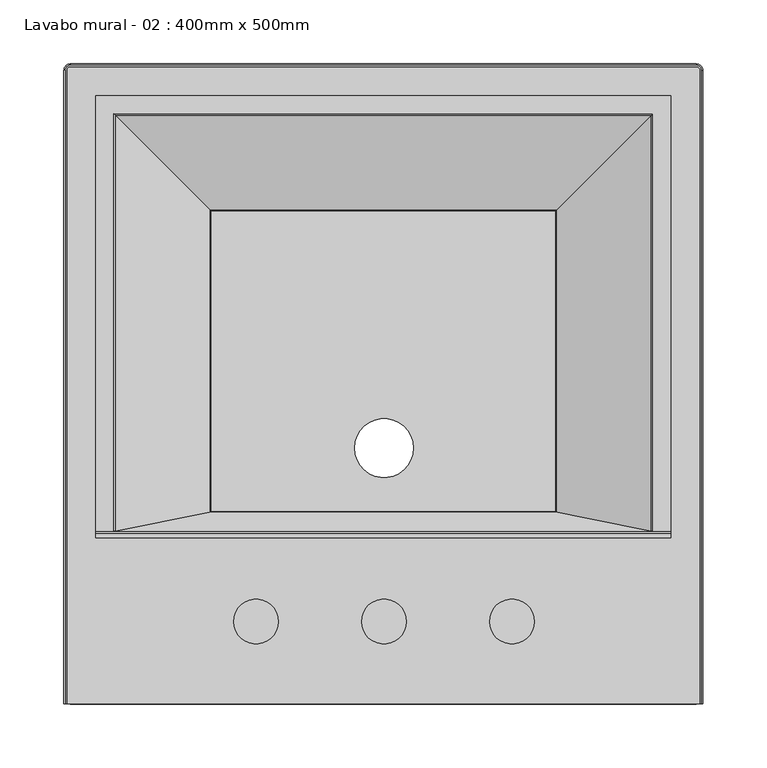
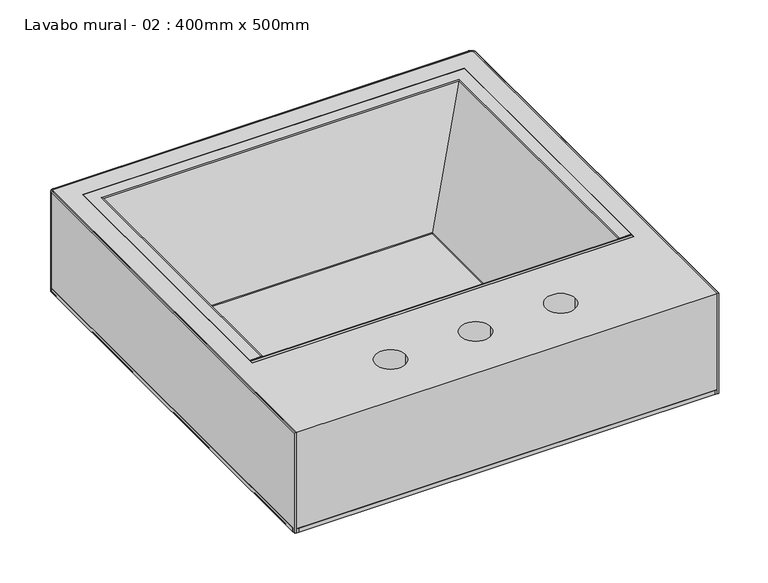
"""IFC4 building model written with IfcOpenShell, lengths in millimetres: flow terminal geometry, Lavabo mural - 02 : 400mm x 500mm."""

import ifcopenshell
import ifcopenshell.guid

model = None  # the IFC model being written
_history = None  # IfcOwnerHistory: only IFC2X3 demands one
_inside = {}  # id of a spatial element -> (the spatial element, [elements in it])
_under = {}  # id of a project, library or spatial element -> (it, [spatial elements below it])
_declared = {}  # id of a project -> (the project, [libraries it declares])
_typed = {}  # id of a type object -> (the type object, [elements of that type])
_made_of = {}  # id of a material, layer set ... -> (it, [elements and type objects made of it])


def new_model(schema):
    """Start an empty IFC model of exactly this schema.

    Asked for "IFC4X3", IfcOpenShell would pick the latest addendum, in which some entities
    have other attributes; the version numbers below select the first issue.
    IFC2X3 requires an IfcOwnerHistory on every rooted entity: one is made here for all.
    """
    global model, _history
    if schema == "IFC4X3":
        model = ifcopenshell.file(schema_version=(4, 3, 0, 0))
    else:
        model = ifcopenshell.file(schema=schema)
    _inside.clear()
    _under.clear()
    _declared.clear()
    _typed.clear()
    _made_of.clear()
    _history = None
    if model.schema == "IFC2X3":
        org = make("IfcOrganization", Name="unknown")
        user = make(
            "IfcPersonAndOrganization",
            ThePerson=make("IfcPerson", FamilyName="unknown"),
            TheOrganization=org,
        )
        app = make(
            "IfcApplication",
            ApplicationDeveloper=org,
            Version="unknown",
            ApplicationFullName="unknown",
            ApplicationIdentifier="unknown",
        )
        _history = make(
            "IfcOwnerHistory",
            OwningUser=user,
            OwningApplication=app,
            ChangeAction="ADDED",
            CreationDate=0,
        )
    return model


def make(cls, **values):
    """One entity of the class cls with the attributes given. An attribute that is None is left unset."""
    return model.create_entity(
        cls, **{name: value for name, value in values.items() if value is not None}
    )


def rooted(cls, **values):
    """An entity with a GlobalId (a new one), such as an element, a storey or a relation."""
    return make(cls, GlobalId=ifcopenshell.guid.new(), OwnerHistory=_history, **values)


def si_unit(unit_type, name, prefix=None):
    """IfcSIUnit, for example si_unit("LENGTHUNIT", "METRE", prefix="MILLI")."""
    return make("IfcSIUnit", UnitType=unit_type, Prefix=prefix, Name=name)


def assignment(units):
    """IfcUnitAssignment: the units of a project."""
    return None if units is None else make("IfcUnitAssignment", Units=units)


def point(xyz):
    """IfcCartesianPoint."""
    return None if xyz is None else make("IfcCartesianPoint", Coordinates=xyz)


def direction(xyz):
    """IfcDirection."""
    return None if xyz is None else make("IfcDirection", DirectionRatios=xyz)


def frame(location, z_axis=None, x_axis=None):
    """IfcAxis2Placement3D, a coordinate frame: its origin and axes. An axis left out is left unset."""
    return make(
        "IfcAxis2Placement3D",
        Location=point(location),
        Axis=direction(z_axis),
        RefDirection=direction(x_axis),
    )


def frame_2d(location, x_axis=None):
    """IfcAxis2Placement2D, a coordinate frame in the plane: its origin and x axis."""
    return make(
        "IfcAxis2Placement2D", Location=point(location), RefDirection=direction(x_axis)
    )


def origin():
    """The frame at (0, 0, 0) with its axes left unset."""
    return frame((0.0, 0.0, 0.0))


def place(relative_to, where):
    """IfcLocalPlacement: puts the frame where relative to a parent placement (None: the world)."""
    return make(
        "IfcLocalPlacement", PlacementRelTo=relative_to, RelativePlacement=where
    )


def context(
    kind, dimensions, precision=None, world=None, true_north=None, identifier=None
):
    """IfcGeometricRepresentationContext, for example the 3D "Model" context."""
    return make(
        "IfcGeometricRepresentationContext",
        ContextIdentifier=identifier,
        ContextType=kind,
        CoordinateSpaceDimension=dimensions,
        Precision=precision,
        WorldCoordinateSystem=world,
        TrueNorth=true_north,
    )


def project(units=None, contexts=None):
    """IfcProject with its units and contexts."""
    return rooted(
        "IfcProject",
        Name="project",
        RepresentationContexts=contexts,
        UnitsInContext=assignment(units),
    )


def spatial(cls, under=None, at=None, **own):
    """A site, building, storey or space (cls), placed at a placement, below another one or the project."""
    s = rooted(cls, ObjectPlacement=at, **own)
    if under is not None:
        _under.setdefault(under.id(), (under, []))[1].append(s)
    return s


def polyline(points):
    """IfcPolyline through the points."""
    return make("IfcPolyline", Points=[point(p) for p in points])


def circle_curve(where, radius):
    """IfcCircle in the frame where."""
    return make("IfcCircle", Position=where, Radius=radius)


def ellipse_curve(where, semi_axis1, semi_axis2):
    """IfcEllipse in the frame where."""
    return make(
        "IfcEllipse", Position=where, SemiAxis1=semi_axis1, SemiAxis2=semi_axis2
    )


def trimmed(basis, trim1, trim2, sense, master):
    """IfcTrimmedCurve: the piece of a basis curve between two trims."""
    return make(
        "IfcTrimmedCurve",
        BasisCurve=basis,
        Trim1=trim1,
        Trim2=trim2,
        SenseAgreement=sense,
        MasterRepresentation=master,
    )


def segment(curve, same_sense, transition):
    """IfcCompositeCurveSegment."""
    return make(
        "IfcCompositeCurveSegment",
        Transition=transition,
        SameSense=same_sense,
        ParentCurve=curve,
    )


def composite_curve(segments, self_intersect=None):
    """IfcCompositeCurve: segments joined end to end."""
    return make("IfcCompositeCurve", Segments=segments, SelfIntersect=self_intersect)


def outline(outer, holes=None, kind="AREA"):
    """IfcArbitraryClosedProfileDef: a profile drawn as a closed curve; with holes, ...WithVoids."""
    if holes is None:
        return make("IfcArbitraryClosedProfileDef", ProfileType=kind, OuterCurve=outer)
    return make(
        "IfcArbitraryProfileDefWithVoids",
        ProfileType=kind,
        OuterCurve=outer,
        InnerCurves=holes,
    )


def extrude(swept, where, along, depth):
    """IfcExtrudedAreaSolid: the profile swept, set in the frame where, extruded along a direction by depth."""
    return make(
        "IfcExtrudedAreaSolid",
        SweptArea=swept,
        Position=where,
        ExtrudedDirection=direction(along),
        Depth=depth,
    )


def shape(context_of_items, identifier, shape_type, items):
    """IfcShapeRepresentation: the items that make up one representation, for example the "Body"."""
    return make(
        "IfcShapeRepresentation",
        ContextOfItems=context_of_items,
        RepresentationIdentifier=identifier,
        RepresentationType=shape_type,
        Items=items,
    )


def source(mapping_origin, context_of_items, identifier, shape_type, items):
    """IfcRepresentationMap: a shape defined once, which mapped items show again and again."""
    return make(
        "IfcRepresentationMap",
        MappingOrigin=mapping_origin,
        MappedRepresentation=shape(context_of_items, identifier, shape_type, items),
    )


def transform(
    local_origin,
    x_axis=None,
    y_axis=None,
    z_axis=None,
    scale=None,
    scale2=None,
    scale3=None,
    uniform=True,
):
    """IfcCartesianTransformationOperator3D, or its non-uniform kind. x_axis, y_axis, z_axis: its Axis1, 2, 3."""
    if uniform:
        return make(
            "IfcCartesianTransformationOperator3D",
            Axis1=direction(x_axis),
            Axis2=direction(y_axis),
            LocalOrigin=point(local_origin),
            Scale=scale,
            Axis3=direction(z_axis),
        )
    return make(
        "IfcCartesianTransformationOperator3DnonUniform",
        Axis1=direction(x_axis),
        Axis2=direction(y_axis),
        LocalOrigin=point(local_origin),
        Scale=scale,
        Axis3=direction(z_axis),
        Scale2=scale2,
        Scale3=scale3,
    )


def mapped(mapping_source, mapping_target):
    """IfcMappedItem: shows the shape of a source again, moved by a transform."""
    return make(
        "IfcMappedItem", MappingSource=mapping_source, MappingTarget=mapping_target
    )


def made_of(thing, what):
    """Note that an element or type object is made of a material, layer set ...; save() writes the relation."""
    if what is not None:
        _made_of.setdefault(what.id(), (what, []))[1].append(thing)
    return thing


def element(
    cls,
    number,
    at=None,
    inside=None,
    cuts=None,
    type_object=None,
    material=None,
    context=None,
    identifier="Body",
    shape_type=None,
    held_by="IfcProductDefinitionShape",
    body=None,
    shapes=None,
    **own,
):
    """One element of the class cls, such as IfcWall. Its Tag is "e" and its number.

    at: its placement. inside: the storey or other place that contains it. cuts: it is an
    opening in that element (IfcRelVoidsElement). A single representation is given by context,
    identifier, shape_type and body (its items); several are given by shapes. held_by: the class
    of the entity that holds the representations. save() writes the other relations.
    """
    e = rooted(cls, Tag="e%d" % number, ObjectPlacement=at, **own)
    if body is not None:
        shapes = [shape(context, identifier, shape_type, body)]
    if shapes is not None:
        e.Representation = make(held_by, Representations=shapes)
    if inside is not None:
        _inside.setdefault(inside.id(), (inside, []))[1].append(e)
    if cuts is not None:
        rooted(
            "IfcRelVoidsElement", RelatingBuildingElement=cuts, RelatedOpeningElement=e
        )
    if type_object is not None:
        _typed.setdefault(type_object.id(), (type_object, []))[1].append(e)
    return made_of(e, material)


def aggregate(whole, parts):
    """IfcRelAggregates: a whole, such as a stair, and the parts it consists of."""
    return rooted("IfcRelAggregates", RelatingObject=whole, RelatedObjects=parts)


def save(model, path):
    """Write the relations noted so far, then the file.

    IfcRelAggregates (storeys below a building ...), IfcRelContainedInSpatialStructure (elements
    in a storey), IfcRelDefinesByType, IfcRelAssociatesMaterial and IfcRelDeclares: one each for
    every whole, place, type object, material and project.
    """
    for whole, parts in _under.values():
        aggregate(whole, parts)
    for where, things in _inside.values():
        rooted(
            "IfcRelContainedInSpatialStructure",
            RelatedElements=things,
            RelatingStructure=where,
        )
    for kind, things in _typed.values():
        rooted("IfcRelDefinesByType", RelatedObjects=things, RelatingType=kind)
    for what, things in _made_of.values():
        rooted("IfcRelAssociatesMaterial", RelatedObjects=things, RelatingMaterial=what)
    for by, libraries in _declared.values():
        rooted("IfcRelDeclares", RelatingContext=by, RelatedDefinitions=libraries)
    model.write(path)


def plane_surface(at):
    """IfcPlane: the flat surface through the origin of the frame at, square to its z axis."""
    return make("IfcPlane", Position=at)


def cylinder_surface(at, radius):
    """IfcCylindricalSurface: all points at the distance radius from the z axis of the frame at."""
    return make("IfcCylindricalSurface", Position=at, Radius=radius)


def revolved_surface(curve, axis_point, axis_direction):
    """IfcSurfaceOfRevolution: the curve turned about the line through axis_point along axis_direction."""
    return make(
        "IfcSurfaceOfRevolution",
        SweptCurve=make("IfcArbitraryOpenProfileDef", ProfileType="CURVE", Curve=curve),
        AxisPosition=make("IfcAxis1Placement", Location=point(axis_point), Axis=direction(axis_direction)),
    )


def advanced_brep(points, edges, surfaces, faces):
    """IfcAdvancedBrep: a solid bounded by faces that lie on surfaces and meet in shared edges.

    An edge is (start, end): straight between two places in points (the first is 0);
    or (start, end, curve); or (start, end, curve, False) where it runs against its curve.
    A face is (place in surfaces, loops), or (place, loops, False) where it looks against
    its surface's normal. A loop lists edges by number (the first is 1), with a minus sign
    where the edge is run from its end to its start. The first loop is the outer one.
    """
    corners = [point(p) for p in points]
    vertices = [make("IfcVertexPoint", VertexGeometry=c) for c in corners]
    made = []
    for start, end, *more in edges:
        made.append(
            make(
                "IfcEdgeCurve",
                EdgeStart=vertices[start],
                EdgeEnd=vertices[end],
                EdgeGeometry=more[0] if more else make("IfcPolyline", Points=[corners[start], corners[end]]),
                SameSense=more[1] if len(more) > 1 else True,
            )
        )
    hull = []
    for where, loops, *sense in faces:
        bounds = []
        for j, loop in enumerate(loops):
            ring = [make("IfcOrientedEdge", EdgeElement=made[abs(k) - 1], Orientation=k > 0) for k in loop]
            bounds.append(
                make(
                    "IfcFaceOuterBound" if j == 0 else "IfcFaceBound",
                    Bound=make("IfcEdgeLoop", EdgeList=ring),
                    Orientation=True,
                )
            )
        hull.append(make("IfcAdvancedFace", Bounds=bounds, FaceSurface=surfaces[where], SameSense=sense[0] if sense else True))
    return make("IfcAdvancedBrep", Outer=make("IfcClosedShell", CfsFaces=hull))


def lavabo_mural_02_400mm_x_500mm_55957bde(model_context):
    return source(origin(), model_context, "Body", "SolidModel", [
        extrude(outline(composite_curve([segment(trimmed(circle_curve(frame_2d((-119.4895, 615.0)), 5.0), [point((-124.4895, 615.0))], [point((-119.4895, 620.0))], False, "CARTESIAN"), True, "CONTINUOUS"), segment(polyline([(-119.4895, 620.0), (369.4895, 620.0)]), True, "CONTINUOUS"), segment(trimmed(circle_curve(frame_2d((369.4895, 615.0)), 5.0), [point((369.4895, 620.0))], [point((374.4895, 615.0))], False, "CARTESIAN"), True, "CONTINUOUS"), segment(polyline([(374.4895, 615.0), (374.4895, 125.0)]), True, "CONTINUOUS"), segment(trimmed(circle_curve(frame_2d((369.4895, 125.0)), 5.0), [point((374.4895, 125.0))], [point((369.4895, 120.0))], False, "CARTESIAN"), True, "CONTINUOUS"), segment(polyline([(369.4895, 120.0), (-119.4895, 120.0)]), True, "CONTINUOUS"), segment(trimmed(circle_curve(frame_2d((-119.4895, 125.0)), 5.0), [point((-119.4895, 120.0))], [point((-124.4895, 125.0))], False, "CARTESIAN"), True, "CONTINUOUS"), segment(polyline([(-124.4895, 125.0), (-124.4895, 615.0)]), True, "CONTINUOUS")], self_intersect=False), holes=[composite_curve([segment(trimmed(circle_curve(frame_2d((125.5105, 320.0)), 23.0), [point((148.5105, 320.0))], [point((102.5105, 320.0))], True, "CARTESIAN"), True, "CONTINUOUS"), segment(trimmed(circle_curve(frame_2d((125.5105, 320.0)), 23.0), [point((102.5105, 320.0))], [point((148.5105, 320.0))], True, "CARTESIAN"), True, "CONTINUOUS")], self_intersect=False)]), frame((0.0, 0.0, 624.95758), z_axis=(0.0, 0.0, 1.0), x_axis=(1.0, 0.0, 0.0)), (0.0, 0.0, 1.0), 5.04242),
        advanced_brep(
        [(-123.4895, 120.0, 750.0), (-124.4895, 120.0, 749.0), (-124.4895, 120.0, 626.0), (-123.4895, 120.0, 625.0), (-122.4895, 120.0, 625.0), (-122.4895, 120.0, 750.0), (-123.4895, 615.0, 750.0), (-124.4895, 615.0, 749.0), (-124.4895, 615.0, 626.0), (-123.4895, 615.0, 625.0), (-119.4895, 619.0, 625.0), (369.4895, 619.0, 625.0), (373.4895, 615.0, 625.0), (373.4895, 120.0, 625.0), (372.4895, 120.0, 625.0), (372.4895, 615.0, 625.0), (369.4895, 618.0, 625.0), (-119.4895, 618.0, 625.0), (-122.4895, 615.0, 625.0), (-122.4895, 615.0, 750.0), (-119.4895, 618.0, 750.0), (369.4895, 618.0, 750.0), (372.4895, 615.0, 750.0), (372.4895, 120.0, 750.0), (373.4895, 120.0, 750.0), (373.4895, 615.0, 750.0), (369.4895, 619.0, 750.0), (-119.4895, 619.0, 750.0), (-119.4895, 620.0, 749.0), (-119.4895, 620.0, 626.0), (369.4895, 620.0, 749.0), (369.4895, 620.0, 626.0), (374.4895, 615.0, 749.0), (374.4895, 615.0, 626.0), (374.4895, 120.0, 626.0), (374.4895, 120.0, 749.0)],
        [
            (0, 1, circle_curve(frame((-123.4895, 120.0, 749.0), z_axis=(0.0, -1.0, 0.0), x_axis=(-1.0, 0.0, 0.0)), 1.0)),
            (1, 2),
            (2, 3, circle_curve(frame((-123.4895, 120.0, 626.0), z_axis=(0.0, -1.0, 0.0), x_axis=(-1.0, 0.0, 0.0)), 1.0)),
            (3, 4),
            (4, 5),
            (5, 0),
            (0, 6),
            (6, 7, circle_curve(frame((-123.4895, 615.0, 749.0), z_axis=(0.0, -1.0, 0.0), x_axis=(-1.0, 0.0, 0.0)), 1.0)),
            (7, 1),
            (7, 8),
            (8, 2),
            (8, 9, circle_curve(frame((-123.4895, 615.0, 626.0), z_axis=(0.0, -1.0, 0.0), x_axis=(-1.0, 0.0, 0.0)), 1.0)),
            (9, 3),
            (9, 10, circle_curve(frame((-119.4895, 615.0, 625.0), z_axis=(0.0, 0.0, -1.0), x_axis=(-1.0, 0.0, 0.0)), 4.0)),
            (10, 11),
            (11, 12, circle_curve(frame((369.4895, 615.0, 625.0), z_axis=(0.0, 0.0, -1.0), x_axis=(0.0, 1.0, 0.0)), 4.0)),
            (12, 13),
            (13, 14),
            (14, 15),
            (15, 16, circle_curve(frame((369.4895, 615.0, 625.0), z_axis=(0.0, 0.0, 1.0), x_axis=(0.0, 1.0, 0.0)), 3.0)),
            (16, 17),
            (17, 18, circle_curve(frame((-119.4895, 615.0, 625.0), z_axis=(0.0, 0.0, 1.0), x_axis=(-1.0, 0.0, 0.0)), 3.0)),
            (18, 4),
            (18, 19),
            (19, 5),
            (19, 20, circle_curve(frame((-119.4895, 615.0, 750.0), z_axis=(0.0, 0.0, -1.0), x_axis=(-1.0, 0.0, 0.0)), 3.0)),
            (20, 21),
            (21, 22, circle_curve(frame((369.4895, 615.0, 750.0), z_axis=(0.0, 0.0, -1.0), x_axis=(0.0, 1.0, 0.0)), 3.0)),
            (22, 23),
            (23, 24),
            (24, 25),
            (25, 26, circle_curve(frame((369.4895, 615.0, 750.0), z_axis=(0.0, 0.0, 1.0), x_axis=(0.0, 1.0, 0.0)), 4.0)),
            (26, 27),
            (27, 6, circle_curve(frame((-119.4895, 615.0, 750.0), z_axis=(0.0, 0.0, 1.0), x_axis=(-1.0, 0.0, 0.0)), 4.0)),
            (28, 7, circle_curve(frame((-119.4895, 615.0, 749.0), z_axis=(0.0, 0.0, 1.0), x_axis=(-1.0, 0.0, 0.0)), 5.0)),
            (27, 28, circle_curve(frame((-119.4895, 619.0, 749.0), z_axis=(-1.0, 0.0, 0.0), x_axis=(0.0, 1.0, 0.0)), 1.0)),
            (29, 8, circle_curve(frame((-119.4895, 615.0, 626.0), z_axis=(0.0, 0.0, 1.0), x_axis=(-1.0, 0.0, 0.0)), 5.0)),
            (28, 29),
            (29, 10, circle_curve(frame((-119.4895, 619.0, 626.0), z_axis=(-1.0, 0.0, 0.0), x_axis=(0.0, 1.0, 0.0)), 1.0)),
            (17, 20),
            (26, 30, circle_curve(frame((369.4895, 619.0, 749.0), z_axis=(-1.0, 0.0, 0.0), x_axis=(0.0, 1.0, 0.0)), 1.0)),
            (30, 28),
            (30, 31),
            (31, 29),
            (31, 11, circle_curve(frame((369.4895, 619.0, 626.0), z_axis=(-1.0, 0.0, 0.0), x_axis=(0.0, 1.0, 0.0)), 1.0)),
            (16, 21),
            (32, 30, circle_curve(frame((369.4895, 615.0, 749.0), z_axis=(0.0, 0.0, 1.0), x_axis=(0.0, 1.0, 0.0)), 5.0)),
            (25, 32, circle_curve(frame((373.4895, 615.0, 749.0), z_axis=(0.0, 1.0, 0.0), x_axis=(1.0, 0.0, 0.0)), 1.0)),
            (33, 31, circle_curve(frame((369.4895, 615.0, 626.0), z_axis=(0.0, 0.0, 1.0), x_axis=(0.0, 1.0, 0.0)), 5.0)),
            (32, 33),
            (33, 12, circle_curve(frame((373.4895, 615.0, 626.0), z_axis=(0.0, 1.0, 0.0), x_axis=(1.0, 0.0, 0.0)), 1.0)),
            (15, 22),
            (23, 14),
            (13, 34, circle_curve(frame((373.4895, 120.0, 626.0), z_axis=(0.0, -1.0, 0.0), x_axis=(1.0, 0.0, 0.0)), 1.0)),
            (34, 35),
            (35, 24, circle_curve(frame((373.4895, 120.0, 749.0), z_axis=(0.0, -1.0, 0.0), x_axis=(1.0, 0.0, 0.0)), 1.0)),
            (35, 32),
            (34, 33),
        ],
        [
            plane_surface(frame((-124.4895, 120.0, 630.0), z_axis=(0.0, -1.0, 0.0), x_axis=(0.0, 0.0, 1.0))),
            cylinder_surface(frame((-123.4895, 120.0, 749.0), z_axis=(0.0, -1.0, 0.0), x_axis=(-1.0, 0.0, 0.0)), 1.0),
            plane_surface(frame((-124.4895, 120.0, 749.0), z_axis=(-1.0, 0.0, 0.0), x_axis=(0.0, 1.0, 0.0))),
            cylinder_surface(frame((-123.4895, 120.0, 626.0), z_axis=(0.0, -1.0, 0.0), x_axis=(-1.0, 0.0, 0.0)), 1.0),
            plane_surface(frame((-123.4895, 120.0, 625.0), z_axis=(0.0, 0.0, -1.0), x_axis=(0.0, 1.0, 0.0))),
            plane_surface(frame((-122.4895, 120.0, 625.0), z_axis=(1.0, 0.0, 0.0), x_axis=(0.0, 1.0, 0.0))),
            plane_surface(frame((-122.4895, 120.0, 750.0), z_axis=(0.0, 0.0, 1.0), x_axis=(0.0, 1.0, 0.0))),
            revolved_surface(trimmed(ellipse_curve(frame((-123.4895, 615.0, 749.0), z_axis=(0.0, -1.0, 0.0), x_axis=(-1.0, 0.0, 0.0)), 1.0, 1.0), [point((-123.4895, 615.0, 750.0))], [point((-124.4895, 615.0, 749.0))], True, "CARTESIAN"), (-119.4895, 615.0, 630.0), (0.0, 0.0, -1.0)),
            cylinder_surface(frame((-119.4895, 615.0, 630.0), z_axis=(0.0, 0.0, -1.0), x_axis=(-1.0, 0.0, 0.0)), 5.0),
            revolved_surface(trimmed(ellipse_curve(frame((-123.4895, 615.0, 626.0), z_axis=(0.0, -1.0, 0.0), x_axis=(-1.0, 0.0, 0.0)), 1.0, 1.0), [point((-124.4895, 615.0, 626.0))], [point((-123.4895, 615.0, 625.0))], True, "CARTESIAN"), (-119.4895, 615.0, 630.0), (0.0, 0.0, -1.0)),
            revolved_surface(polyline([(-122.4895, 615.0, 625.0), (-122.4895, 615.0, 750.0)]), (-119.4895, 615.0, 630.0), (0.0, 0.0, -1.0)),
            cylinder_surface(frame((-119.4895, 619.0, 749.0), z_axis=(-1.0, 0.0, 0.0), x_axis=(0.0, 1.0, 0.0)), 1.0),
            plane_surface(frame((-119.4895, 620.0, 749.0), z_axis=(0.0, 1.0, 0.0), x_axis=(1.0, 0.0, 0.0))),
            cylinder_surface(frame((-119.4895, 619.0, 626.0), z_axis=(-1.0, 0.0, 0.0), x_axis=(0.0, 1.0, 0.0)), 1.0),
            plane_surface(frame((-119.4895, 618.0, 625.0), z_axis=(0.0, -1.0, 0.0), x_axis=(1.0, 0.0, 0.0))),
            revolved_surface(trimmed(ellipse_curve(frame((369.4895, 619.0, 749.0), z_axis=(-1.0, 0.0, 0.0), x_axis=(0.0, 1.0, 0.0)), 1.0, 1.0), [point((369.4895, 619.0, 750.0))], [point((369.4895, 620.0, 749.0))], True, "CARTESIAN"), (369.4895, 615.0, 630.0), (0.0, 0.0, -1.0)),
            cylinder_surface(frame((369.4895, 615.0, 630.0), z_axis=(0.0, 0.0, -1.0), x_axis=(0.0, 1.0, 0.0)), 5.0),
            revolved_surface(trimmed(ellipse_curve(frame((369.4895, 619.0, 626.0), z_axis=(-1.0, 0.0, 0.0), x_axis=(0.0, 1.0, 0.0)), 1.0, 1.0), [point((369.4895, 620.0, 626.0))], [point((369.4895, 619.0, 625.0))], True, "CARTESIAN"), (369.4895, 615.0, 630.0), (0.0, 0.0, -1.0)),
            revolved_surface(polyline([(369.4895, 618.0, 625.0), (369.4895, 618.0, 750.0)]), (369.4895, 615.0, 630.0), (0.0, 0.0, -1.0)),
            plane_surface(frame((374.4895, 120.0, 630.0), z_axis=(0.0, -1.0, 0.0), x_axis=(0.0, 0.0, 1.0))),
            cylinder_surface(frame((373.4895, 615.0, 749.0), z_axis=(0.0, 1.0, 0.0), x_axis=(1.0, 0.0, 0.0)), 1.0),
            plane_surface(frame((374.4895, 615.0, 749.0), z_axis=(1.0, 0.0, 0.0), x_axis=(0.0, -1.0, 0.0))),
            cylinder_surface(frame((373.4895, 615.0, 626.0), z_axis=(0.0, 1.0, 0.0), x_axis=(1.0, 0.0, 0.0)), 1.0),
            plane_surface(frame((372.4895, 615.0, 625.0), z_axis=(-1.0, 0.0, 0.0), x_axis=(0.0, -1.0, 0.0))),
        ],
        [
            (0, [[1, 2, 3, 4, 5, 6]]),
            (1, [[-1, 7, 8, 9]]),
            (2, [[-2, -9, 10, 11]]),
            (3, [[-3, -11, 12, 13]]),
            (4, [[-4, -13, 14, 15, 16, 17, 18, 19, 20, 21, 22, 23]]),
            (5, [[-5, -23, 24, 25]]),
            (6, [[-6, -25, 26, 27, 28, 29, 30, 31, 32, 33, 34, -7]]),
            (7, [[35, -8, -34, 36]]),
            (8, [[37, -10, -35, 38]]),
            (9, [[-14, -12, -37, 39]]),
            (10, [[-26, -24, -22, 40]]),
            (11, [[-36, -33, 41, 42]]),
            (12, [[-38, -42, 43, 44]]),
            (13, [[-39, -44, 45, -15]]),
            (14, [[-40, -21, 46, -27]]),
            (15, [[47, -41, -32, 48]]),
            (16, [[49, -43, -47, 50]]),
            (17, [[-16, -45, -49, 51]]),
            (18, [[-28, -46, -20, 52]]),
            (19, [[-30, 53, -18, 54, 55, 56]]),
            (20, [[-48, -31, -56, 57]]),
            (21, [[-50, -57, -55, 58]]),
            (22, [[-51, -58, -54, -17]]),
            (23, [[-52, -19, -53, -29]]),
        ],
    ),
        extrude(outline(composite_curve([segment(trimmed(circle_curve(frame_2d((369.4895, 615.0)), 3.0), [point((369.4895, 618.0))], [point((372.4895, 615.0))], False, "CARTESIAN"), True, "CONTINUOUS"), segment(polyline([(372.4895, 615.0), (372.4895, 120.0), (-122.4895, 120.0), (-122.4895, 615.0)]), True, "CONTINUOUS"), segment(trimmed(circle_curve(frame_2d((-119.4895, 615.0)), 3.0), [point((-122.4895, 615.0))], [point((-119.4895, 618.0))], False, "CARTESIAN"), True, "CONTINUOUS"), segment(polyline([(-119.4895, 618.0), (369.4895, 618.0)]), True, "CONTINUOUS")], self_intersect=False), holes=[composite_curve([segment(trimmed(circle_curve(frame_2d((25.51071, 184.360641)), 17.5), [point((8.01071, 184.360641))], [point((43.01071, 184.360641))], True, "CARTESIAN"), True, "CONTINUOUS"), segment(trimmed(circle_curve(frame_2d((25.51071, 184.360641)), 17.5), [point((43.01071, 184.360641))], [point((8.01071, 184.360641))], True, "CARTESIAN"), True, "CONTINUOUS")], self_intersect=False), composite_curve([segment(trimmed(circle_curve(frame_2d((125.51071, 184.360641)), 17.5), [point((108.01071, 184.360641))], [point((143.01071, 184.360641))], True, "CARTESIAN"), True, "CONTINUOUS"), segment(trimmed(circle_curve(frame_2d((125.51071, 184.360641)), 17.5), [point((143.01071, 184.360641))], [point((108.01071, 184.360641))], True, "CARTESIAN"), True, "CONTINUOUS")], self_intersect=False), composite_curve([segment(trimmed(circle_curve(frame_2d((225.51071, 184.360641)), 17.5), [point((243.01071, 184.360641))], [point((208.01071, 184.360641))], True, "CARTESIAN"), True, "CONTINUOUS"), segment(trimmed(circle_curve(frame_2d((225.51071, 184.360641)), 17.5), [point((208.01071, 184.360641))], [point((243.01071, 184.360641))], True, "CARTESIAN"), True, "CONTINUOUS")], self_intersect=False), polyline([(-99.4895, 595.0), (-99.4895, 250.0), (349.4895, 250.0), (349.4895, 595.0), (-99.4895, 595.0)])]), frame((0.0, 0.0, 630.0), z_axis=(0.0, 0.0, 1.0), x_axis=(1.0, 0.0, 0.0)), (0.0, 0.0, 1.0), 120.0),
        extrude(outline(composite_curve([segment(polyline([(255.1022771, 748.2507881), (269.827107, 631.7492119)]), True, "CONTINUOUS"), segment(trimmed(circle_curve(frame_2d((271.811321, 632.0)), 2.0), [point((269.827107, 631.7492119))], [point((271.811321, 630.0))], True, "CARTESIAN"), True, "CONTINUOUS"), segment(polyline([(271.811321, 630.0), (275.6855127, 630.0), (275.6855127, 624.95758), (265.6855127, 624.95758), (249.8811913, 750.0), (253.1180631, 750.0)]), True, "CONTINUOUS"), segment(trimmed(circle_curve(frame_2d((253.1180631, 748.0)), 2.0), [point((253.1180631, 750.0))], [point((255.1022771, 748.2507881))], False, "CARTESIAN"), True, "CONTINUOUS")], self_intersect=False)), frame((-99.4895, 0.0, 0.0), z_axis=(1.0, 0.0, 0.0), x_axis=(0.0, 1.0, 0.0)), (0.0, 0.0, 1.0), 448.979),
        advanced_brep(
        [(-99.4895, 255.0, 750.0), (-99.4895, 255.0, 745.0), (-87.260742, 255.0, 745.0), (-12.2344223, 255.0, 624.95758), (-4.1362711, 255.0, 624.95758), (-4.1362711, 255.0, 630.0), (-8.381196, 255.0, 630.0), (-10.0771938, 255.0, 630.9400041), (-83.901999, 255.0, 749.0599959), (-85.5979968, 255.0, 750.0), (-99.4895, 595.0, 750.0), (-99.4895, 595.0, 745.0), (349.4895, 595.0, 745.0), (349.4895, 255.0, 745.0), (337.260742, 255.0, 745.0), (337.260742, 582.771242, 745.0), (-87.260742, 582.771242, 745.0), (-12.2344223, 507.7449223, 624.95758), (262.2344223, 507.7449223, 624.95758), (262.2344223, 255.0, 624.95758), (254.1362711, 255.0, 624.95758), (254.1362711, 499.6467711, 624.95758), (-4.1362711, 499.6467711, 624.95758), (-4.1362711, 499.6467711, 630.0), (254.1362711, 499.6467711, 630.0), (254.1362711, 255.0, 630.0), (258.381196, 255.0, 630.0), (258.381196, 503.891696, 630.0), (-8.381196, 503.891696, 630.0), (-10.0771938, 505.5876938, 630.9400041), (-83.901999, 579.412499, 749.0599959), (-85.5979968, 581.1084968, 750.0), (335.5979968, 581.1084968, 750.0), (335.5979968, 255.0, 750.0), (349.4895, 255.0, 750.0), (349.4895, 595.0, 750.0), (260.0771938, 505.5876938, 630.9400041), (333.901999, 579.412499, 749.0599959), (333.901999, 255.0, 749.0599959), (260.0771938, 255.0, 630.9400041)],
        [
            (0, 1),
            (1, 2),
            (2, 3),
            (3, 4),
            (4, 5),
            (5, 6),
            (6, 7, circle_curve(frame((-8.381196, 255.0, 632.0), z_axis=(0.0, 1.0, 0.0), x_axis=(-1.0, 0.0, 0.0)), 2.0)),
            (7, 8),
            (8, 9, circle_curve(frame((-85.5979968, 255.0, 748.0), z_axis=(0.0, -1.0, 0.0), x_axis=(-1.0, 0.0, 0.0)), 2.0)),
            (9, 0),
            (0, 10),
            (10, 11),
            (11, 1),
            (11, 12),
            (12, 13),
            (13, 14),
            (14, 15),
            (15, 16),
            (16, 2),
            (16, 17),
            (17, 3),
            (17, 18),
            (18, 19),
            (19, 20),
            (20, 21),
            (21, 22),
            (22, 4),
            (22, 23),
            (23, 5),
            (23, 24),
            (24, 25),
            (25, 26),
            (26, 27),
            (27, 28),
            (28, 6),
            (28, 29, ellipse_curve(frame((-8.381196, 503.891696, 632.0), z_axis=(0.7071067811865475, 0.7071067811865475, 0.0), x_axis=(-0.7071067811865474, 0.7071067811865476, 0.0)), 2.8284271, 2.0)),
            (29, 7),
            (29, 30),
            (30, 8),
            (30, 31, ellipse_curve(frame((-85.5979968, 581.1084968, 748.0), z_axis=(-0.7071067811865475, -0.7071067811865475, 0.0), x_axis=(0.7071067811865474, -0.7071067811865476, 0.0)), 2.8284271, 2.0)),
            (31, 9),
            (31, 32),
            (32, 33),
            (33, 34),
            (34, 35),
            (35, 10),
            (35, 12),
            (15, 18),
            (21, 24),
            (27, 36, ellipse_curve(frame((258.381196, 503.891696, 632.0), z_axis=(0.7071067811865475, -0.7071067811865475, 0.0), x_axis=(0.7071067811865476, 0.7071067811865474, 0.0)), 2.8284271, 2.0)),
            (36, 29),
            (36, 37),
            (37, 30),
            (37, 32, ellipse_curve(frame((335.5979968, 581.1084968, 748.0), z_axis=(-0.7071067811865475, 0.7071067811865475, 0.0), x_axis=(-0.7071067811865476, -0.7071067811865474, 0.0)), 2.8284271, 2.0)),
            (33, 38, circle_curve(frame((335.5979968, 255.0, 748.0), z_axis=(0.0, -1.0, 0.0), x_axis=(1.0, 0.0, 0.0)), 2.0)),
            (38, 39),
            (39, 26, circle_curve(frame((258.381196, 255.0, 632.0), z_axis=(0.0, 1.0, 0.0), x_axis=(1.0, 0.0, 0.0)), 2.0)),
            (25, 20),
            (19, 14),
            (13, 34),
            (39, 36),
            (38, 37),
        ],
        [
            plane_surface(frame((-99.4895, 255.0, 630.0), z_axis=(0.0, -1.0, 0.0), x_axis=(0.0, 0.0, 1.0))),
            plane_surface(frame((-99.4895, 255.0, 750.0), z_axis=(-1.0, 0.0, 0.0), x_axis=(0.0, 1.0, 0.0))),
            plane_surface(frame((-99.4895, 255.0, 745.0), z_axis=(0.0, 0.0, -1.0), x_axis=(0.0, 1.0, 0.0))),
            plane_surface(frame((-87.260742, 255.0, 745.0), z_axis=(-0.8479989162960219, 0.0, -0.5299979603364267), x_axis=(0.0, 1.0, 0.0))),
            plane_surface(frame((-12.2344223, 255.0, 624.95758), z_axis=(0.0, 0.0, -1.0), x_axis=(0.0, 1.0, 0.0))),
            plane_surface(frame((-4.1362711, 255.0, 624.95758), z_axis=(1.0, 0.0, 0.0), x_axis=(0.0, 1.0, 0.0))),
            plane_surface(frame((-4.1362711, 255.0, 630.0), z_axis=(0.0, 0.0, 1.0), x_axis=(0.0, 1.0, 0.0))),
            revolved_surface(polyline([(-10.381196, 505.8916959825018, 632.0), (-10.381196, 255.0, 632.0)]), (-8.381196, 255.0, 632.0), (0.0, 1.0, 0.0)),
            plane_surface(frame((-10.0771938, 255.0, 630.9400041), z_axis=(0.8479989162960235, 0.0, 0.529997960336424), x_axis=(0.0, 1.0, 0.0))),
            cylinder_surface(frame((-85.5979968, 255.0, 748.0), z_axis=(0.0, -1.0, 0.0), x_axis=(-1.0, 0.0, 0.0)), 2.0),
            plane_surface(frame((-85.5979968, 255.0, 750.0), z_axis=(0.0, 0.0, 1.0), x_axis=(0.0, 1.0, 0.0))),
            plane_surface(frame((-99.4895, 595.0, 750.0), z_axis=(0.0, 1.0, 0.0), x_axis=(1.0, 0.0, 0.0))),
            plane_surface(frame((-87.260742, 582.771242, 745.0), z_axis=(0.0, 0.8479989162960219, -0.5299979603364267), x_axis=(1.0, 0.0, 0.0))),
            plane_surface(frame((-4.1362711, 499.6467711, 624.95758), z_axis=(0.0, -1.0, 0.0), x_axis=(1.0, 0.0, 0.0))),
            revolved_surface(polyline([(260.38119598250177, 505.891696, 632.0), (-10.381195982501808, 505.891696, 632.0)]), (-99.4895, 503.891696, 632.0), (1.0, 0.0, 0.0)),
            plane_surface(frame((-10.0771938, 505.5876938, 630.9400041), z_axis=(0.0, -0.8479989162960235, 0.529997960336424), x_axis=(1.0, 0.0, 0.0))),
            cylinder_surface(frame((-99.4895, 581.1084968, 748.0), z_axis=(-1.0, 0.0, 0.0), x_axis=(0.0, 1.0, 0.0)), 2.0),
            plane_surface(frame((349.4895, 255.0, 630.0), z_axis=(0.0, -1.0, 0.0), x_axis=(0.0, 0.0, 1.0))),
            plane_surface(frame((349.4895, 595.0, 750.0), z_axis=(1.0, 0.0, 0.0), x_axis=(0.0, -1.0, 0.0))),
            plane_surface(frame((337.260742, 582.771242, 745.0), z_axis=(0.8479989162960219, 0.0, -0.5299979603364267), x_axis=(0.0, -1.0, 0.0))),
            plane_surface(frame((254.1362711, 499.6467711, 624.95758), z_axis=(-1.0, 0.0, 0.0), x_axis=(0.0, -1.0, 0.0))),
            revolved_surface(polyline([(260.381196, 255.0, 632.0), (260.381196, 505.8916959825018, 632.0)]), (258.381196, 595.0, 632.0), (0.0, -1.0, 0.0)),
            plane_surface(frame((260.0771938, 505.5876938, 630.9400041), z_axis=(-0.8479989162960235, 0.0, 0.529997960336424), x_axis=(0.0, -1.0, 0.0))),
            cylinder_surface(frame((335.5979968, 595.0, 748.0), z_axis=(0.0, 1.0, 0.0), x_axis=(1.0, 0.0, 0.0)), 2.0),
        ],
        [
            (0, [[1, 2, 3, 4, 5, 6, 7, 8, 9, 10]]),
            (1, [[-1, 11, 12, 13]]),
            (2, [[-2, -13, 14, 15, 16, 17, 18, 19]]),
            (3, [[-3, -19, 20, 21]]),
            (4, [[-4, -21, 22, 23, 24, 25, 26, 27]]),
            (5, [[-5, -27, 28, 29]]),
            (6, [[-6, -29, 30, 31, 32, 33, 34, 35]]),
            (7, [[-7, -35, 36, 37]]),
            (8, [[-8, -37, 38, 39]]),
            (9, [[-9, -39, 40, 41]]),
            (10, [[-10, -41, 42, 43, 44, 45, 46, -11]]),
            (11, [[-12, -46, 47, -14]]),
            (12, [[-20, -18, 48, -22]]),
            (13, [[-28, -26, 49, -30]]),
            (14, [[-36, -34, 50, 51]]),
            (15, [[-38, -51, 52, 53]]),
            (16, [[-40, -53, 54, -42]]),
            (17, [[-44, 55, 56, 57, -32, 58, -24, 59, -16, 60]]),
            (18, [[-47, -45, -60, -15]]),
            (19, [[-48, -17, -59, -23]]),
            (20, [[-49, -25, -58, -31]]),
            (21, [[-50, -33, -57, 61]]),
            (22, [[-52, -61, -56, 62]]),
            (23, [[-54, -62, -55, -43]]),
        ],
    ),
    ])


if __name__ == "__main__":
    model = new_model("IFC4")
    model_context = context("Model", 3, world=origin())
    ifc_project = project(units=[si_unit("LENGTHUNIT", "METRE", prefix="MILLI")], contexts=[model_context])
    site = spatial("IfcSite", under=ifc_project)
    building = spatial("IfcBuilding", under=site)
    placement = place(None, origin())
    lavabo_mural_02_400mm_x_500mm_shape = lavabo_mural_02_400mm_x_500mm_55957bde(model_context)
    element("IfcFlowTerminal", 1, ObjectType="Lavabo mural - 02 : 400mm x 500mm", at=placement, inside=building, context=model_context, shape_type="MappedRepresentation", body=[
        mapped(lavabo_mural_02_400mm_x_500mm_shape, transform((0.0, 0.0, 0.0), x_axis=(1.0, 0.0, 0.0), y_axis=(0.0, 1.0, 0.0), z_axis=(0.0, 0.0, 1.0))),
    ])
    save(model, "model.ifc")
